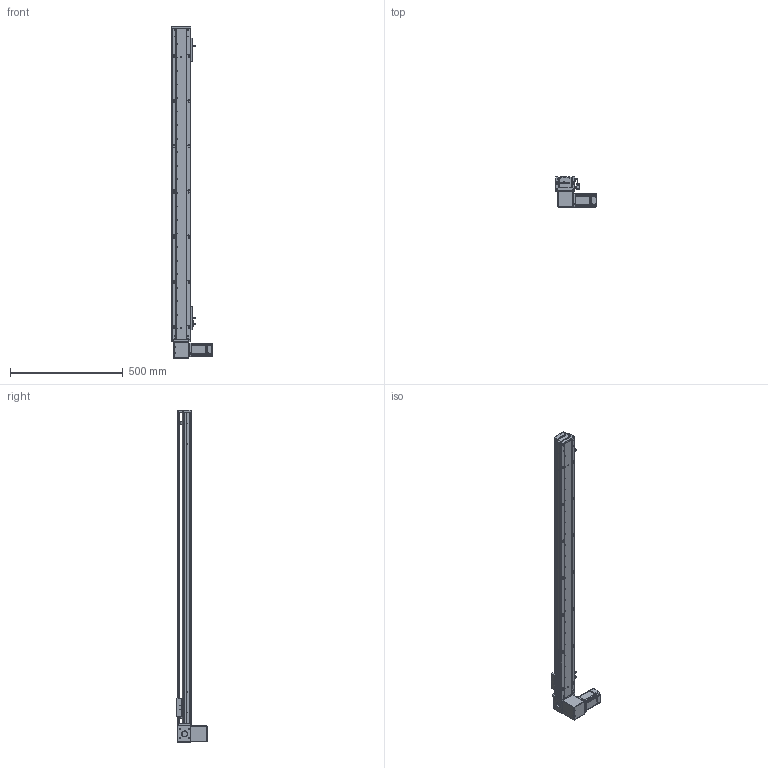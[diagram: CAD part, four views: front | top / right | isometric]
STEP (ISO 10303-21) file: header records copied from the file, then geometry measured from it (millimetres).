
FILE_DESCRIPTION (( 'STEP AP203' ), '1' );
FILE_NAME ('RY80-T-300-DR.SLDASM_1200.step', '2021-03-01T01:50:26', ( '盈信电脑' ), ( '东莞市道滘镇水果街19号' ), 'SwSTEP 2.0', 'SolidWorks 2012', '' );
FILE_SCHEMA (( 'CONFIG_CONTROL_DESIGN' ));
Length unit declared in the file: millimetre
Products named in the file (18): RY80-T-300-DR.SLDASM_1200; 1; RY80-T-M4蹟翐3; RY80-T萇儂假蚾啣; RY80-T翋肮祭謫裔啣; RY80-T肮祭謫狟殏俋欶; 滅袉蝶18-10; RY80-T-上下折同步轮盖板; RY80-T肮祭湍揤輸2; RY80-T肮祭湍揤輸1; RY80-T-翋肮祭謫釱; RY80俋离覜茼え; 覜茼ん672; RY80-T-300-DR倰第奻裔啣_1200; RY80-T綴裔啣; 672嫖萇羲壽假蚾釱; RY80-T-300-DR倰第菁釱_1200; RY80-T肮祭謫臏賑輸
Assembly tree (21 placements, depth 2):
  RY80-T-300-DR.SLDASM_1200
    RY80-T-300-DR倰第菁釱_1200
    RY80-T肮祭謫臏賑輸
    RY80-T-300-DR倰第奻裔啣_1200
    RY80-T綴裔啣
    672嫖萇羲壽假蚾釱  x2
    覜茼ん672  x3
    RY80俋离覜茼え
    RY80-T-翋肮祭謫釱
    RY80-T肮祭湍揤輸1
    RY80-T肮祭湍揤輸2
    滅袉蝶18-10  x2
    RY80-T翋肮祭謫裔啣
    RY80-T-上下折同步轮盖板
    RY80-T肮祭謫狟殏俋欶
    RY80-T萇儂假蚾啣
    1
    RY80-T-M4蹟翐3
Bounding box: 180 x 134.5 x 1470 mm (x, y, z)
Volume: 2425325.1 mm3; surface area: 1019251.2 mm2
Topology: 21 solids, 21 shells, 2428 faces, 6718 edges, 4362 vertices
Faces by surface type: plane 1307, cylinder 924, cone 141, bspline 56
Entity records: 77462 total; most frequent: CARTESIAN_POINT 18824, ORIENTED_EDGE 12080, DIRECTION 11342, EDGE_CURVE 6040, VERTEX_POINT 3966, AXIS2_PLACEMENT_3D 3808, VECTOR 3726, LINE 3726
